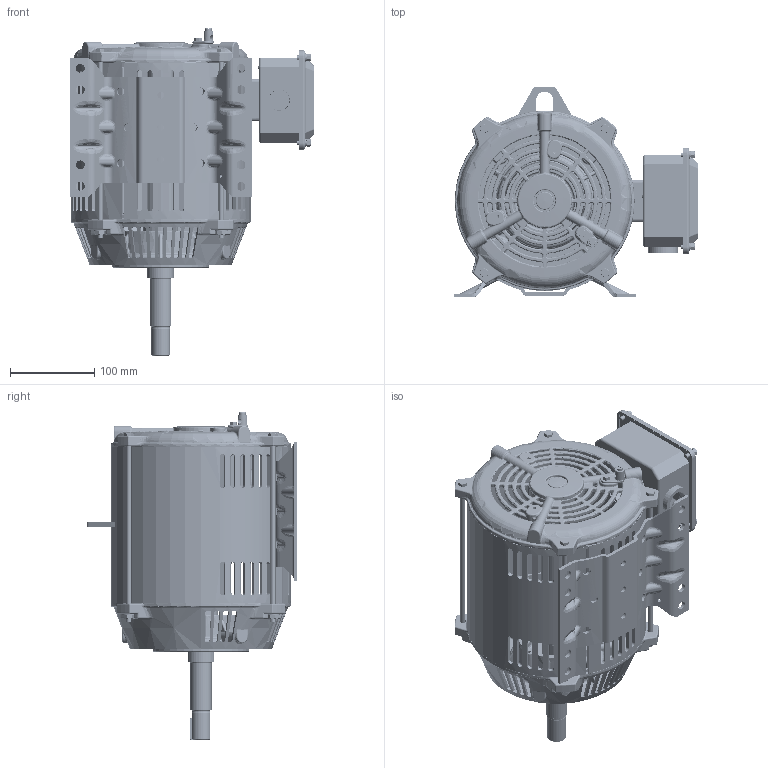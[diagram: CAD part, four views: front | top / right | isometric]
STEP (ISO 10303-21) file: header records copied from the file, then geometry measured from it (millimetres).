
FILE_DESCRIPTION (( 'STEP AP203' ), '1' );
FILE_NAME ('SS621171-100_RevA.STEP', '2022-07-11T06:12:31', ( '' ), ( '' ), 'SwSTEP 2.0', 'SolidWorks 2021', '' );
FILE_SCHEMA (( 'CONFIG_CONTROL_DESIGN' ));
Length unit declared in the file: millimetre
Products named in the file (1): SS621171-100_RevA
Bounding box: 290.15 x 249.8 x 387.88 mm (x, y, z)
Volume: 1578855.7 mm3; surface area: 790428.4 mm2
Topology: 40 solids, 40 shells, 4882 faces, 12075 edges, 7155 vertices
Faces by surface type: bspline 1640, cylinder 1311, plane 848, torus 671, cone 260, sphere 152
Entity records: 221265 total; most frequent: CARTESIAN_POINT 119527, ORIENTED_EDGE 23842, DIRECTION 18046, EDGE_CURVE 11921, AXIS2_PLACEMENT_3D 7641, VERTEX_POINT 7142, EDGE_LOOP 5237, FACE_OUTER_BOUND 4882
